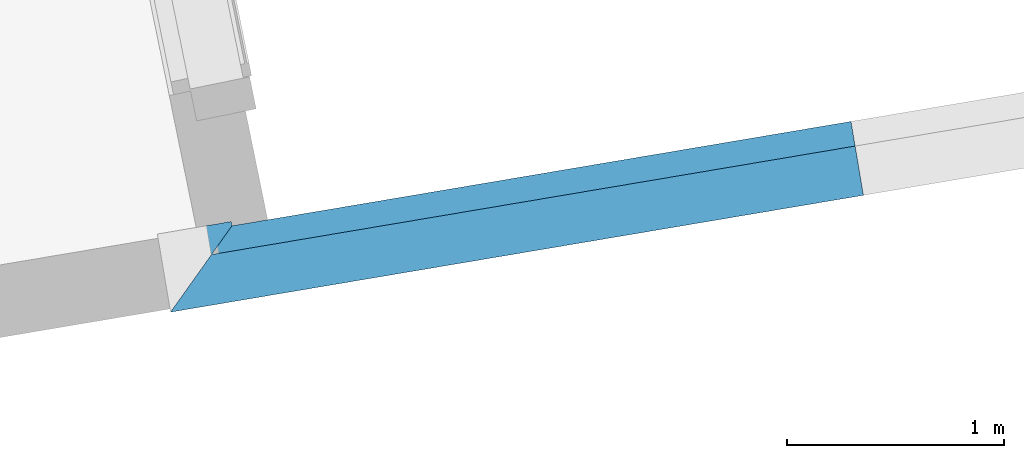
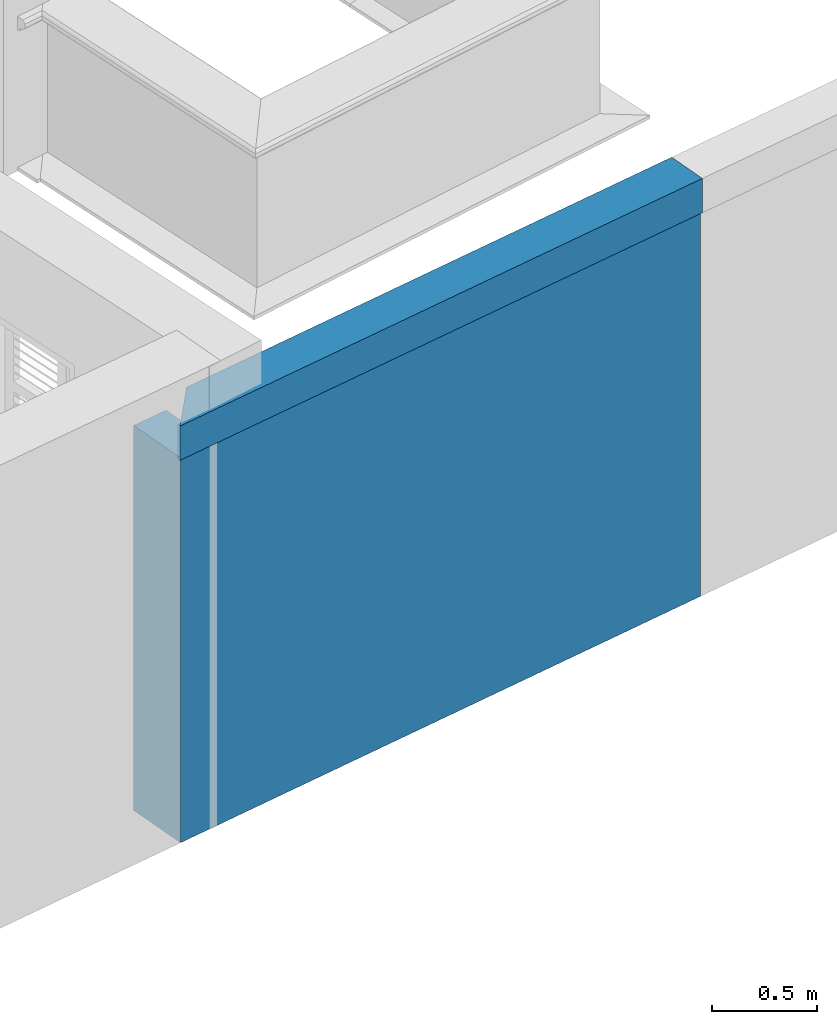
# One storey, part 2 of 7: 3 walls.
"""IFC4 building model written with IfcOpenShell, lengths in metres."""

from ifc_helpers import new_model, si_unit, frame, origin_with_axes, place, context, subcontext, project, spatial, polyline, outline, extrude, clip, halfspace, material_profile, profile_set, profile_usage, type_object, element, save


model = new_model("IFC4")

# Units and contexts
model_context = context("Model", 3, world=origin_with_axes())
body_context = subcontext(model_context, "Body", "Model", "MODEL_VIEW")
ifc_project = project(units=[si_unit("PLANEANGLEUNIT", "RADIAN"), si_unit("MASSUNIT", "GRAM", prefix="KILO"), si_unit("FORCEUNIT", "NEWTON", prefix="KILO"), si_unit("LENGTHUNIT", "METRE"), si_unit("AREAUNIT", "SQUARE_METRE"), si_unit("VOLUMEUNIT", "CUBIC_METRE")], contexts=[model_context, model_context])

# Site, building, storey
site_placement = place(None, origin_with_axes())
site = spatial("IfcSite", under=ifc_project, at=site_placement, Name="Site plot-7", CompositionType="ELEMENT")
building_placement = place(None, origin_with_axes())
building = spatial("IfcBuilding", under=site, at=building_placement, Name="Building plot-7", CompositionType="ELEMENT")
storey_placement = place(None, frame((0.0, 0.0, 3.0), z_axis=(0.0, 0.0, 1.0), x_axis=(1.0, 0.0, 0.0)))
storey = spatial("IfcBuildingStorey", under=building, at=storey_placement, Name="plot-7 1", CompositionType="ELEMENT", Elevation=3.0)

# Walls
ifc_material_profile_1 = material_profile(None, outline(polyline([(0.25, 0.0), (0.25, 2.245), (0.05, 2.245), (0.05, 0.02), (-0.08, 0.02), (-0.08, 0.0), (0.25, 0.0)])))
ifc_profile_set_1 = profile_set([ifc_material_profile_1])
ifc_profile_usage_1 = profile_usage(ifc_profile_set_1)
wall_type_1 = type_object("IfcWallType", Name="parapet party_0", PredefinedType="PARAPET", material=ifc_profile_set_1)
wall_1_placement = place(storey_placement, frame((-7.98636038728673, 3.98638596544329, 0.0), z_axis=(-0.166292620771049, 0.986076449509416, 0.0), x_axis=(-0.986076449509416, -0.166292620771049, 0.0)))
element("IfcWall", 1, at=wall_1_placement, inside=storey, type_object=wall_type_1, material=ifc_profile_usage_1, Name="parapet party_0", context=body_context, shape_type="Clipping", body=[
    clip(clip(extrude(outline(polyline([(0.25, 0.0), (0.25, 2.245), (0.05, 2.245), (0.05, 0.02), (-0.08, 0.02), (-0.08, 0.0), (0.25, 0.0)])), origin_with_axes(), (0.0, 0.0, 1.0), 2.1), halfspace(frame((0.0, 0.0, 1.1), z_axis=(-5.0532154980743e-16, 0.0, -1.0), x_axis=(0.0, 1.0, 0.0)), True)), halfspace(frame((0.0, 0.0, 1.0), z_axis=(-0.70710678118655, 0.0, -0.707106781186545), x_axis=(0.0, 1.0, 0.0)), False)),
])
ifc_profile_usage_2 = profile_usage(ifc_profile_set_1)
wall_2_placement = place(storey_placement, frame((-4.23556016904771, 5.63304368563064, 0.0), z_axis=(-0.986076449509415, -0.166292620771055, 0.0), x_axis=(0.166292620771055, -0.986076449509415, 0.0)))
element("IfcWall", 2, at=wall_2_placement, inside=storey, type_object=wall_type_1, material=ifc_profile_usage_2, Name="parapet party_0", context=body_context, shape_type="Clipping", body=[
    clip(clip(extrude(outline(polyline([(0.25, 0.0), (0.25, 2.245), (0.05, 2.245), (0.05, 0.02), (-0.08, 0.02), (-0.08, 0.0), (0.25, 0.0)])), origin_with_axes(), (0.0, 0.0, 1.0), 4.97240278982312), halfspace(frame((0.0, 0.0, 3.97240278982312), z_axis=(0.70710678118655, 0.0, -0.707106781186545), x_axis=(0.0, 1.0, 0.0)), True)), halfspace(frame((0.0, 0.0, 1.0), z_axis=(1.60812264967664e-16, 0.0, -1.0), x_axis=(0.0, 1.0, 0.0)), False)),
])
ifc_material_profile_2 = material_profile(None, outline(polyline([(0.265, 2.245), (0.265, 2.445), (0.035, 2.445), (0.035, 2.245), (0.265, 2.245)])))
ifc_profile_set_2 = profile_set([ifc_material_profile_2])
ifc_profile_usage_3 = profile_usage(ifc_profile_set_2)
wall_type_2 = type_object("IfcWallType", Name="parapet party_1", PredefinedType="PARAPET", material=ifc_profile_set_2)
wall_3_placement = place(storey_placement, frame((-4.23556016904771, 5.63304368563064, 0.0), z_axis=(-0.986076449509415, -0.166292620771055, 0.0), x_axis=(0.166292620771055, -0.986076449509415, 0.0)))
element("IfcWall", 3, at=wall_3_placement, inside=storey, type_object=wall_type_2, material=ifc_profile_usage_3, Name="parapet party_1", context=body_context, shape_type="Clipping", body=[
    clip(clip(extrude(outline(polyline([(0.265, 2.245), (0.265, 2.445), (0.035, 2.445), (0.035, 2.245), (0.265, 2.245)])), origin_with_axes(), (0.0, 0.0, 1.0), 4.97240278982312), halfspace(frame((0.0, 0.0, 3.97240278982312), z_axis=(0.70710678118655, 0.0, -0.707106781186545), x_axis=(0.0, 1.0, 0.0)), True)), halfspace(frame((0.0, 0.0, 1.0), z_axis=(1.60812264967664e-16, 0.0, -1.0), x_axis=(0.0, 1.0, 0.0)), False)),
])

save(model, "model.ifc")
